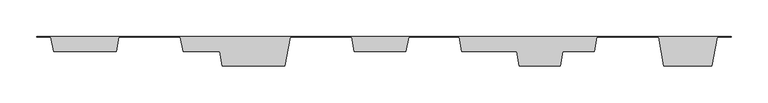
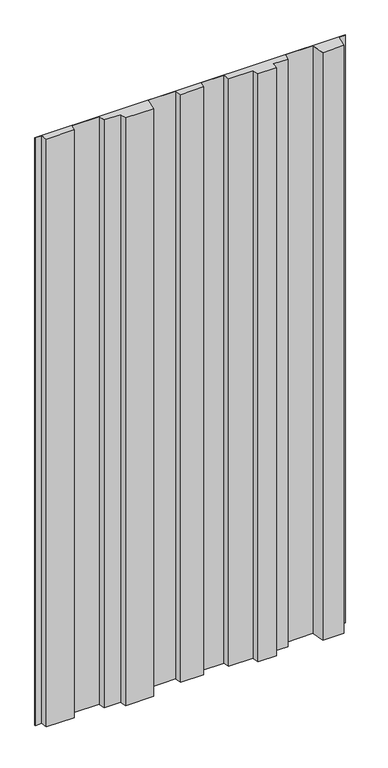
"""IFC4 building model written with IfcOpenShell, lengths in millimetres: plate geometry, ATELIERS 3S_NEW YORK BROOKLYN 950_VERTICAL : AZURO."""

from ifc_helpers import new_model, si_unit, origin, origin_with_axes, place, context, project, spatial, polyline, outline, extrude, source, transform, mapped, element, save


def plate_e0caeaf7(model_context):
    return source(origin(), model_context, "Body", "SweptSolid", [
        extrude(outline(polyline([(-455.3058462, -0.8), (-475.0000002, -0.8), (-475.0000002, 0.0), (474.9246337, 0.0), (474.9246337, -0.8), (455.2304797, -0.8), (448.1862168, -40.75), (382.5568921, -40.75), (375.5038129, -0.75), (291.1331376, -0.75), (287.606598, -20.75), (244.106598, -20.75), (240.5800584, -40.75), (184.9507336, -40.75), (181.424194, -20.75), (106.424194, -20.75), (102.8976544, -0.75), (33.5269791, -0.75), (30.0004395, -20.75), (-40.6288852, -20.75), (-44.1554248, -0.75), (-128.5261001, -0.75), (-135.5791793, -40.75), (-221.2085041, -40.75), (-224.7350437, -20.75), (-274.7350437, -20.75), (-278.2615833, -0.75), (-362.6322586, -0.75), (-366.1587982, -20.75), (-451.7881229, -20.75), (-455.3058462, -0.8)])), origin_with_axes(), (0.0, 0.0, 1.0), 1900.0),
    ])


if __name__ == "__main__":
    model = new_model("IFC4")
    model_context = context("Model", 3, world=origin())
    ifc_project = project(units=[si_unit("LENGTHUNIT", "METRE", prefix="MILLI")], contexts=[model_context])
    site = spatial("IfcSite", under=ifc_project)
    building = spatial("IfcBuilding", under=site)
    placement = place(None, origin())
    plate_shape = plate_e0caeaf7(model_context)
    element("IfcPlate", 1, ObjectType="ATELIERS 3S_NEW YORK BROOKLYN 950_VERTICAL : AZURO", at=placement, inside=building, context=model_context, shape_type="MappedRepresentation", body=[
        mapped(plate_shape, transform((0.0, 0.0, 0.0), x_axis=(1.0, 0.0, 0.0), y_axis=(0.0, 1.0, 0.0), z_axis=(0.0, 0.0, 1.0))),
    ])
    save(model, "model.ifc")
